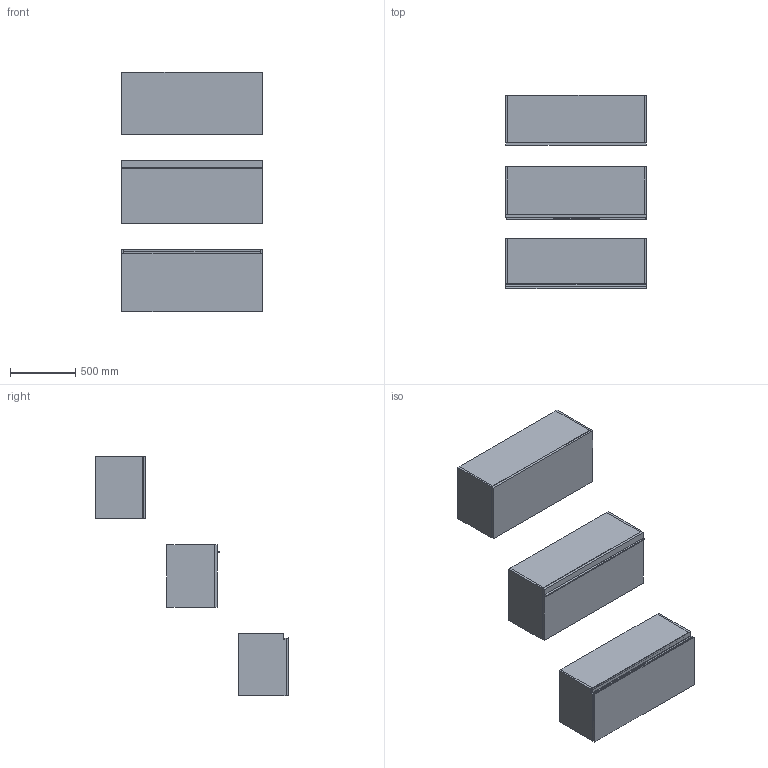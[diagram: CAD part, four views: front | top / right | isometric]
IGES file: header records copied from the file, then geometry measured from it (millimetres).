
Start section: Data from Parasolid IGES Translator 19.0.9, Copyright(c) 2006 Siemens PL M Software. All Rights Reserved.
Global section: file name: noorth-SI-H 48 D 38,8 W 108_8406.igs; native system: By Siemens PLM Incorporated; preprocessor: XPlus GENERIC/IGES 19.0.9; author: Noname; organization: Noname; date: 20200601.102608; units: metre
Bounding box: 1080.01 x 1485.1 x 1840.01 mm (x, y, z)
Volume: 86175777.5 mm3; surface area: 13299808.8 mm2
Topology: 20 solids, 20 shells, 178 faces, 382 edges, 234 vertices
Faces by surface type: plane 134, extrusion 16, bspline 16, cylinder 12
